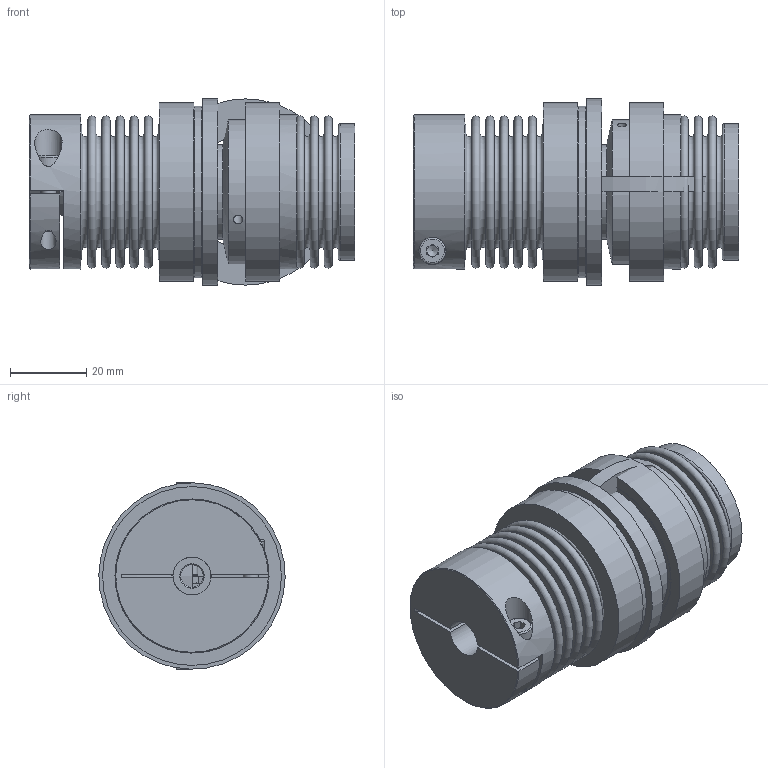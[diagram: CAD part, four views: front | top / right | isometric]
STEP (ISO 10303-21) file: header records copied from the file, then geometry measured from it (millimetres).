
FILE_DESCRIPTION( ( 'Unknown' ), '1' );
FILE_NAME( 'C:/Dokumente und Einstellungen/SKarpstein/Desktop/Korrigierte 3D Modelle/KBK-BKI-10-65.stp', 'Unknown', ( 'Unknown' ), ( 'Unknown' ), 'XStep 1.0', 'Unknown', ' ' );
FILE_SCHEMA( ( 'automotive_design' ) );
Length unit declared in the file: millimetre
Products named in the file (10): Assem1; Stellring 10; Druckring 10; KBK L-I-10 Grundkörper; din_en_24017_m3x12; Konusbuchse KBK 10; Flansch BK10; KN10_Standard_D10; Socket Head Cap Screw_DIN_DIN 912 M4 x 16 --- 16N_4; BK100_Standard_2
Bounding box: 85.51 x 48.99 x 49 mm (x, y, z)
Volume: 97869.1 mm3; surface area: 87770.5 mm2
Topology: 21 solids, 21 shells, 468 faces, 970 edges, 617 vertices
Faces by surface type: plane 235, cylinder 96, cone 72, torus 65
Full cylindrical faces by diameter (mm): 2.459 x16, 3 x5, 3.1 x8, 4 x4, 4.2 x2, 4.57 x5, 6 x4, 7 x2, 7.2 x2, 10 x2, 16 x2, 19 x2, 20 x4, 24 x4, 25 x4, 26 x2, 29.993 x2, 32 x2, 35.2 x4, 35.8 x4, 38 x2, 40 x2, 40.5 x2, 45 x2, 47 x2, 49 x2
Entity records: 5282 total; most frequent: CARTESIAN_POINT 1106, DIRECTION 895, ORIENTED_EDGE 600, AXIS2_PLACEMENT_3D 410, EDGE_LOOP 356, EDGE_CURVE 300, FACE_OUTER_BOUND 275, VERTEX_POINT 239
